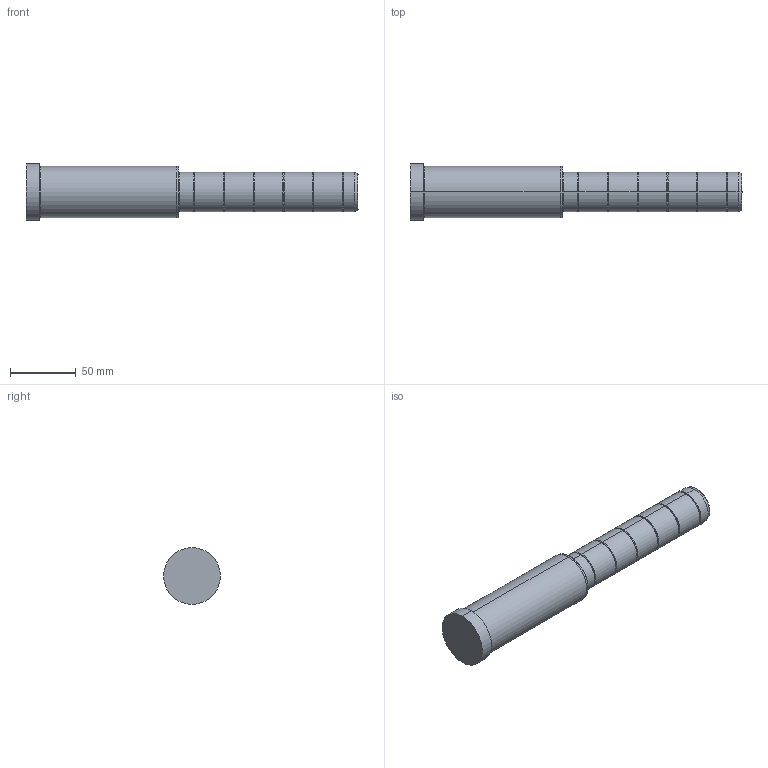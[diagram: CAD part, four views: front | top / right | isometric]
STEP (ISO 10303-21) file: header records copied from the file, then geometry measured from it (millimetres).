
FILE_DESCRIPTION( ( 'STEP AP203' ), '1' );
FILE_NAME( 'C:/Projects/D02 - 30x116x136.step', '2002-12-31T22:36:38', ( ' ' ), ( ' ' ), 'XStep 1.0', ' ', ' ' );
FILE_SCHEMA( ( 'CONFIG_CONTROL_DESIGN' ) );
Length unit declared in the file: metre
Products named in the file (1): 1
Bounding box: 252 x 43 x 43 mm (x, y, z)
Volume: 237057 mm3; surface area: 30224.8 mm2
Topology: 1 solids, 1 shells, 60 faces, 118 edges, 64 vertices
Faces by surface type: bspline 34, revolution 26
Entity records: 1919 total; most frequent: CARTESIAN_POINT 817, ORIENTED_EDGE 236, DIRECTION 182, EDGE_CURVE 118, AXIS2_PLACEMENT_3D 65, EDGE_LOOP 64, VERTEX_POINT 64, CIRCLE 64
